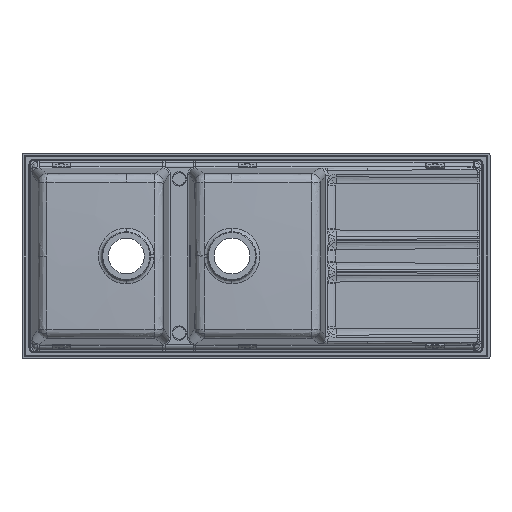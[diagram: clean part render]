
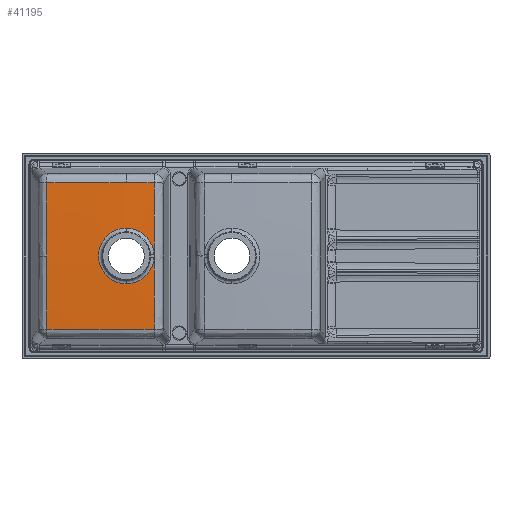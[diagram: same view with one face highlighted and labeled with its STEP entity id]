
A CAD part, front view. The second image highlights one B-rep face of the part: STEP entity #41195.
In plain terms, the highlighted free-form (B-spline) face has degree [3, 3] with [4, 4] control points.
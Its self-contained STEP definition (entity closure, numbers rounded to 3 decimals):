
#80 = CARTESIAN_POINT ( 'NONE',  ( -321.47, -197.505, 0. ) ) ;
#109 = ORIENTED_EDGE ( 'NONE', *, *, #37003, .T. ) ;
#1291 = VERTEX_POINT ( 'NONE', #5657 ) ;
#1462 = CIRCLE ( 'NONE', #16346, 4770.481 ) ;
#1505 = DIRECTION ( 'NONE',  ( 0.087, 0.996, 0. ) ) ;
#2386 = CARTESIAN_POINT ( 'NONE',  ( -601.813, -191.944, 51.945 ) ) ;
#2535 = EDGE_LOOP ( 'NONE', ( #12098, #14858, #21261, #30109, #38687, #35407, #109, #41604, #9702, #18175 ) ) ;
#2592 = EDGE_CURVE ( 'NONE', #15561, #25788, #37162, .T. ) ;
#3259 = CARTESIAN_POINT ( 'NONE',  ( -321.47, 4557.752, -597.198 ) ) ;
#3418 = DIRECTION ( 'NONE',  ( 0., 0.996, -0.087 ) ) ;
#4614 = CIRCLE ( 'NONE', #11348, 68.956 ) ;
#4633 = DIRECTION ( 'NONE',  ( 0.996, 0.087, 0. ) ) ;
#5265 = AXIS2_PLACEMENT_3D ( 'NONE', #17580, #21433, #10040 ) ;
#5629 = DIRECTION ( 'NONE',  ( 0., -0.996, -0.087 ) ) ;
#5657 = CARTESIAN_POINT ( 'NONE',  ( -252.621, -197.505, -3.822 ) ) ;
#6104 = CARTESIAN_POINT ( 'NONE',  ( -321.47, -197.505, -68.956 ) ) ;
#6224 = CARTESIAN_POINT ( 'NONE',  ( 164.264, 4567.504, 0. ) ) ;
#7138 = VERTEX_POINT ( 'NONE', #13373 ) ;
#8941 = CARTESIAN_POINT ( 'NONE',  ( -162.035, -197.193, -73.737 ) ) ;
#8950 = CIRCLE ( 'NONE', #23629, 68.956 ) ;
#9135 = DIRECTION ( 'NONE',  ( 0., -0.087, 0.996 ) ) ;
#9217 = VERTEX_POINT ( 'NONE', #38624 ) ;
#9302 = EDGE_CURVE ( 'NONE', #15561, #16096, #1462, .T. ) ;
#9417 = CARTESIAN_POINT ( 'NONE',  ( -457.514, -192.657, -225.599 ) ) ;
#9702 = ORIENTED_EDGE ( 'NONE', *, *, #38741, .F. ) ;
#9789 = DIRECTION ( 'NONE',  ( 0., -0.087, 0.996 ) ) ;
#10040 = DIRECTION ( 'NONE',  ( 0., 0., 1. ) ) ;
#10414 = CARTESIAN_POINT ( 'NONE',  ( -321.47, -194.576, 181.423 ) ) ;
#10593 = DIRECTION ( 'NONE',  ( 0., 0.087, 0.996 ) ) ;
#11348 = AXIS2_PLACEMENT_3D ( 'NONE', #25116, #32297, #36302 ) ;
#12098 = ORIENTED_EDGE ( 'NONE', *, *, #2592, .T. ) ;
#12880 = DIRECTION ( 'NONE',  ( 0.087, -0.996, 0. ) ) ;
#13373 = CARTESIAN_POINT ( 'NONE',  ( -518.35, -190.527, -181.778 ) ) ;
#13434 = CARTESIAN_POINT ( 'NONE',  ( -681.254, -183.896, -77.366 ) ) ;
#13496 = DIRECTION ( 'NONE',  ( 0., -0.996, -0.087 ) ) ;
#13579 = CARTESIAN_POINT ( 'NONE',  ( -567.148, -191.32, -147.928 ) ) ;
#14858 = ORIENTED_EDGE ( 'NONE', *, *, #30655, .T. ) ;
#15144 = DIRECTION ( 'NONE',  ( 0., 1., 0. ) ) ;
#15380 =( BOUNDED_SURFACE ( )  B_SPLINE_SURFACE ( 3, 3, ( 
 ( #37730, #41581, #41428, #37905 ),
 ( #16011, #16491, #30688, #8941 ),
 ( #2386, #27963, #20337, #35025 ),
 ( #13434, #13579, #9417, #31953 ) ),
 .UNSPECIFIED., .F., .F., .F. ) 
 B_SPLINE_SURFACE_WITH_KNOTS ( ( 4, 4 ),
 ( 4, 4 ),
 ( 0., 1. ),
 ( 0., 1. ),
 .UNSPECIFIED. ) 
 GEOMETRIC_REPRESENTATION_ITEM ( )  RATIONAL_B_SPLINE_SURFACE ( (
 ( 1., 0.998, 0.998, 1.),
 ( 0.999, 0.997, 0.997, 0.999),
 ( 0.999, 0.997, 0.997, 0.999),
 ( 1., 0.998, 0.998, 1.) ) ) 
 REPRESENTATION_ITEM ( '' )  SURFACE ( )  );
#15561 = VERTEX_POINT ( 'NONE', #37401 ) ;
#16011 = CARTESIAN_POINT ( 'NONE',  ( -521.922, -192.805, 181.226 ) ) ;
#16086 = CARTESIAN_POINT ( 'NONE',  ( 164.264, 4567.504, 0. ) ) ;
#16096 = VERTEX_POINT ( 'NONE', #10414 ) ;
#16346 = AXIS2_PLACEMENT_3D ( 'NONE', #20566, #9789, #13496 ) ;
#16371 = CARTESIAN_POINT ( 'NONE',  ( -321.47, 4557.752, 597.198 ) ) ;
#16491 = CARTESIAN_POINT ( 'NONE',  ( -396.819, -200.946, 103.863 ) ) ;
#16648 = DIRECTION ( 'NONE',  ( 0.087, 0.996, 0. ) ) ;
#17368 = EDGE_CURVE ( 'NONE', #38782, #43069, #43373, .T. ) ;
#17539 = CIRCLE ( 'NONE', #22757, 4770.481 ) ;
#17580 = CARTESIAN_POINT ( 'NONE',  ( -321.47, -197.505, 0. ) ) ;
#18175 = ORIENTED_EDGE ( 'NONE', *, *, #9302, .F. ) ;
#18812 = DIRECTION ( 'NONE',  ( 0., 0., 1. ) ) ;
#20337 = CARTESIAN_POINT ( 'NONE',  ( -367.117, -201.135, -103.547 ) ) ;
#20566 = CARTESIAN_POINT ( 'NONE',  ( -321.47, 4557.752, 597.198 ) ) ;
#21261 = ORIENTED_EDGE ( 'NONE', *, *, #37181, .T. ) ;
#21433 = DIRECTION ( 'NONE',  ( 0., 1., 0. ) ) ;
#22757 = AXIS2_PLACEMENT_3D ( 'NONE', #3259, #10593, #3418 ) ;
#22882 = CARTESIAN_POINT ( 'NONE',  ( -933.656, 4556.441, 0. ) ) ;
#23370 = DIRECTION ( 'NONE',  ( 0.087, -0.996, 0. ) ) ;
#23629 = AXIS2_PLACEMENT_3D ( 'NONE', #80, #15144, #18812 ) ;
#23998 = CARTESIAN_POINT ( 'NONE',  ( -252.621, -197.505, 3.822 ) ) ;
#24099 = AXIS2_PLACEMENT_3D ( 'NONE', #16086, #44998, #1505 ) ;
#24139 = VERTEX_POINT ( 'NONE', #31054 ) ;
#25116 = CARTESIAN_POINT ( 'NONE',  ( -321.47, -197.505, 0. ) ) ;
#25788 = VERTEX_POINT ( 'NONE', #37696 ) ;
#26136 = AXIS2_PLACEMENT_3D ( 'NONE', #38304, #45165, #12880 ) ;
#27216 = CIRCLE ( 'NONE', #36274, 4770.481 ) ;
#27873 = EDGE_CURVE ( 'NONE', #1291, #38782, #4614, .T. ) ;
#27963 = CARTESIAN_POINT ( 'NONE',  ( -482.12, -199.733, -22.073 ) ) ;
#30109 = ORIENTED_EDGE ( 'NONE', *, *, #33633, .F. ) ;
#30655 = EDGE_CURVE ( 'NONE', #25788, #7138, #46428, .T. ) ;
#30688 = CARTESIAN_POINT ( 'NONE',  ( -276.618, -202.411, 18.706 ) ) ;
#30841 = CIRCLE ( 'NONE', #24099, 4783.212 ) ;
#31054 = CARTESIAN_POINT ( 'NONE',  ( -252.321, -194.077, -181.467 ) ) ;
#31686 = CIRCLE ( 'NONE', #32335, 4783.212 ) ;
#31790 = AXIS2_PLACEMENT_3D ( 'NONE', #22882, #4633, #23370 ) ;
#31953 = CARTESIAN_POINT ( 'NONE',  ( -353.003, -187.898, -309.916 ) ) ;
#32297 = DIRECTION ( 'NONE',  ( 0., 1., 0. ) ) ;
#32335 = AXIS2_PLACEMENT_3D ( 'NONE', #6224, #42850, #16648 ) ;
#32915 = CARTESIAN_POINT ( 'NONE',  ( -321.47, -197.505, 68.956 ) ) ;
#33633 = EDGE_CURVE ( 'NONE', #1291, #24139, #30841, .T. ) ;
#35025 = CARTESIAN_POINT ( 'NONE',  ( -257.489, -196.143, -191.993 ) ) ;
#35407 = ORIENTED_EDGE ( 'NONE', *, *, #17368, .T. ) ;
#36274 = AXIS2_PLACEMENT_3D ( 'NONE', #16371, #9135, #5629 ) ;
#36302 = DIRECTION ( 'NONE',  ( 0., 0., 1. ) ) ;
#36773 = VERTEX_POINT ( 'NONE', #23998 ) ;
#37003 = EDGE_CURVE ( 'NONE', #43069, #36773, #8950, .T. ) ;
#37162 = CIRCLE ( 'NONE', #31790, 4768.566 ) ;
#37181 = EDGE_CURVE ( 'NONE', #7138, #24139, #17539, .T. ) ;
#37401 = CARTESIAN_POINT ( 'NONE',  ( -518.35, -190.527, 181.778 ) ) ;
#37696 = CARTESIAN_POINT ( 'NONE',  ( -518.048, -193.98, 0. ) ) ;
#37730 = CARTESIAN_POINT ( 'NONE',  ( -441.761, -186.476, 310.187 ) ) ;
#37905 = CARTESIAN_POINT ( 'NONE',  ( -66.855, -191.046, 44.584 ) ) ;
#38304 = CARTESIAN_POINT ( 'NONE',  ( -933.656, 4556.441, 0. ) ) ;
#38624 = CARTESIAN_POINT ( 'NONE',  ( -252.321, -194.077, 181.467 ) ) ;
#38687 = ORIENTED_EDGE ( 'NONE', *, *, #27873, .T. ) ;
#38741 = EDGE_CURVE ( 'NONE', #16096, #9217, #27216, .T. ) ;
#38782 = VERTEX_POINT ( 'NONE', #6104 ) ;
#41195 = ADVANCED_FACE ( 'NONE', ( #46021 ), #15380, .T. ) ;
#41243 = EDGE_CURVE ( 'NONE', #9217, #36773, #31686, .T. ) ;
#41428 = CARTESIAN_POINT ( 'NONE',  ( -186.22, -196.482, 140.885 ) ) ;
#41581 = CARTESIAN_POINT ( 'NONE',  ( -311.437, -194.956, 229.596 ) ) ;
#41604 = ORIENTED_EDGE ( 'NONE', *, *, #41243, .F. ) ;
#42850 = DIRECTION ( 'NONE',  ( 0.996, -0.087, 0. ) ) ;
#43069 = VERTEX_POINT ( 'NONE', #32915 ) ;
#43373 = CIRCLE ( 'NONE', #5265, 68.956 ) ;
#44998 = DIRECTION ( 'NONE',  ( 0.996, -0.087, 0. ) ) ;
#45165 = DIRECTION ( 'NONE',  ( 0.996, 0.087, 0. ) ) ;
#46021 = FACE_OUTER_BOUND ( 'NONE', #2535, .T. ) ;
#46428 = CIRCLE ( 'NONE', #26136, 4768.566 ) ;
